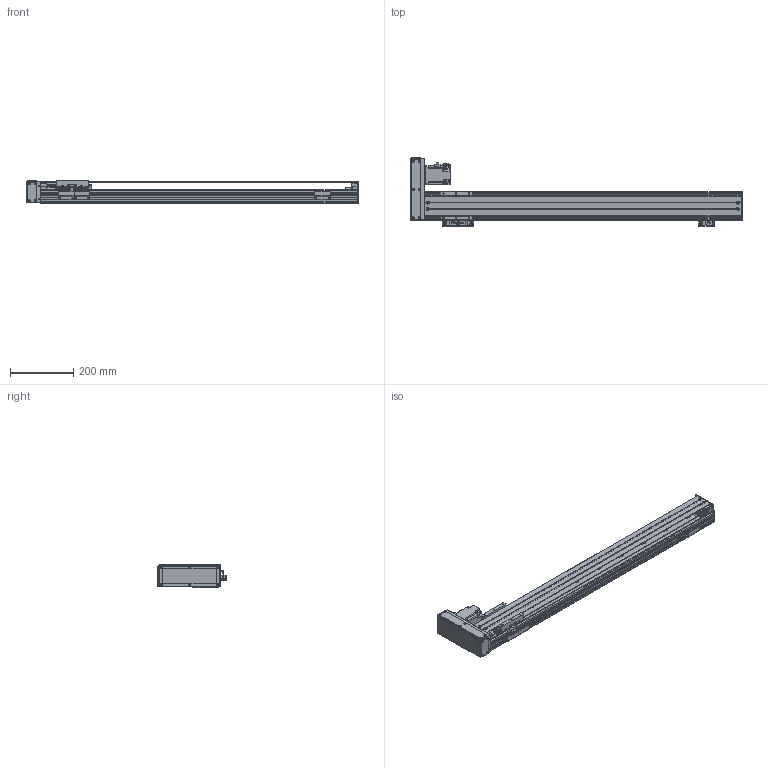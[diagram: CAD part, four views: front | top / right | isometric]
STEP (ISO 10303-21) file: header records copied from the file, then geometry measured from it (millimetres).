
FILE_DESCRIPTION(/* description */ (''),/* implementation_level */ '2;1');
FILE_NAME(/* name */ '\\192.168.0.160\disk1\HAN SHIN Master\B-설계부문\C-표준\B-2024년\BC02-표준도면\+로봇 개선표준도면\홈페이지 표준 도면\홈페이지 최종 작업 폴더\3D\HR\HR90\HG90병렬\좌병렬\HR90-L20-N1B-0800-R10.stp',/* time_stamp */ '2025-01-20T13:10:50+09:00',/* author */ ('user'),/* organization */ (''),/* preprocessor_version */ 'ST-DEVELOPER v18.1',/* originating_system */ 'Autodesk Inventor 2022',/* authorisation */ '');
FILE_SCHEMA (('CONFIG_CONTROL_DESIGN'));
Length unit declared in the file: millimetre
Products named in the file (22): HG90-L20-N1B-0500-R10; HR90 BASE 100W 1BLOCK; HR90 FRONT BLOCK; HR90 REAR BLOCK TENSION; HR90 REAR COVER-TENSION; HG4UPCOV002; HR120 SENSOR DOG; HG90STOPPER - 27L; HG90STOPPER - 20L; HC90-LR-MOTOR PLATE(200W)-사출; MOTOR PLATE-200W(MITSUBISHI); hg-kr23_; 화살표; HR65-LR-BELT COVER; HC90-BELT COVER-COVER3; M-5HL-4; HR90 TABLE; LMKE1520 NUT; SENSOR BRK(EE-SX674A); EE_SX674A; HR75-D-BELT COVER-COVER; HC90-BELT COVER-COVER2
Assembly tree (27 placements, depth 2):
  HG90-L20-N1B-0500-R10
    HR90 BASE 100W 1BLOCK
    HR90 FRONT BLOCK
    HR90 REAR BLOCK TENSION
    HR90 REAR COVER-TENSION
    HG4UPCOV002
    EE_SX674A  x3
    SENSOR BRK(EE-SX674A)  x3
    HR120 SENSOR DOG
    HG90STOPPER - 27L
    HG90STOPPER - 20L
    HC90-LR-MOTOR PLATE(200W)-사출
    MOTOR PLATE-200W(MITSUBISHI)
    hg-kr23_
    화살표  x2
    HC90-BELT COVER-COVER3  x2
    HR65-LR-BELT COVER
    M-5HL-4
    HR90 TABLE
    LMKE1520 NUT
    HR75-D-BELT COVER-COVER
    HC90-BELT COVER-COVER2
Bounding box: 1049 x 215 x 75 mm (x, y, z)
Volume: 2087827.3 mm3; surface area: 872337.5 mm2
Topology: 27 solids, 27 shells, 1414 faces, 3703 edges, 2425 vertices
Faces by surface type: plane 689, cylinder 613, cone 104, sphere 8
Full cylindrical faces by diameter (mm): 1.8 x1, 2 x4, 2.459 x38, 2.5 x2, 3 x8, 3.242 x25, 3.4 x20, 3.5 x6, 4 x4, 4.134 x50, 4.5 x16, 4.917 x5, 5 x29, 5.5 x38, 5.6 x8, 5.8 x4, 5.9 x8, 6 x4, 6.5 x1, 7 x1, 8 x1, 9.5 x34, 14 x1, 15 x3, 17 x1, 20 x1, 22 x1, 25 x1, 28 x1, 32 x2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
Entity records: 39825 total; most frequent: CARTESIAN_POINT 7291, DIRECTION 6802, ORIENTED_EDGE 6292, EDGE_CURVE 3146, AXIS2_PLACEMENT_3D 2462, VERTEX_POINT 2093, LINE 1878, VECTOR 1878
